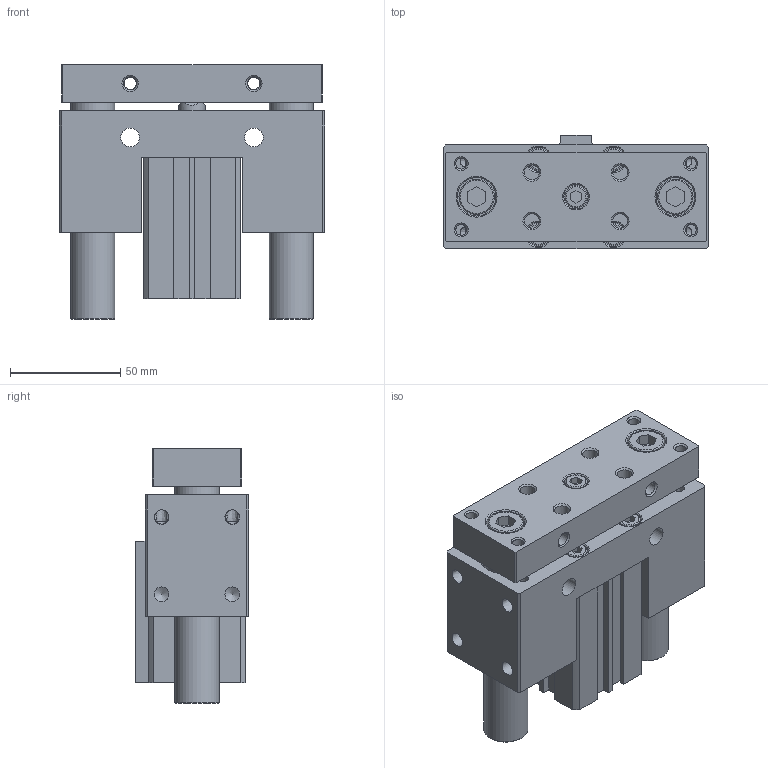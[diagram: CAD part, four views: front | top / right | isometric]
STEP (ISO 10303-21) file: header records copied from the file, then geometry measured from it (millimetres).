
FILE_DESCRIPTION((''),'2;1');
FILE_NAME('I:\3D電子目錄\氣缸\JCB\JCB\JCB32\JCB32x40.stp','2007-08-21T20:25:28',('Administrator'),(''),'Autodesk Inventor 11','Autodesk Inventor 11','');
FILE_SCHEMA(('AUTOMOTIVE_DESIGN { 1 0 10303 214 1 1 1 1 }'));
Length unit declared in the file: millimetre
Products named in the file (1): JCB32
Bounding box: 120 x 51.5 x 115.4 mm (x, y, z)
Volume: 421539.3 mm3; surface area: 101925.1 mm2
Topology: 3 solids, 3 shells, 322 faces, 757 edges, 491 vertices
Faces by surface type: plane 174, cylinder 54, bspline 45, cone 41, torus 8
Full cylindrical faces by diameter (mm): 2.2 x2, 5.1 x4, 6 x2, 6.647 x4, 8 x8, 10 x5, 11 x5, 12 x1, 13 x1, 16 x2, 17.5 x2, 20 x2, 22 x1, 23 x3, 34 x4, 36 x2
Entity records: 9312 total; most frequent: CARTESIAN_POINT 2546, DIRECTION 1348, ORIENTED_EDGE 1196, EDGE_CURVE 598, EDGE_LOOP 538, AXIS2_PLACEMENT_3D 496, VERTEX_POINT 460, VECTOR 356
